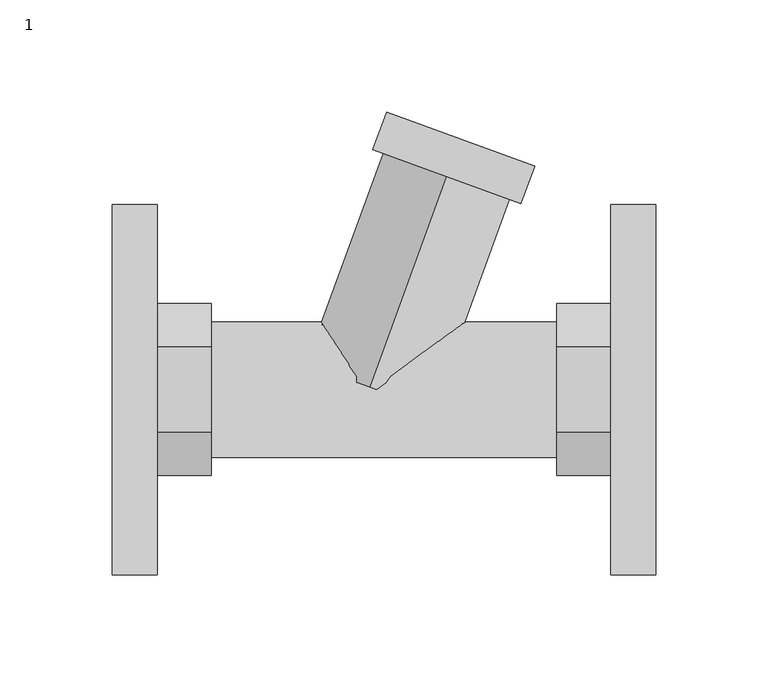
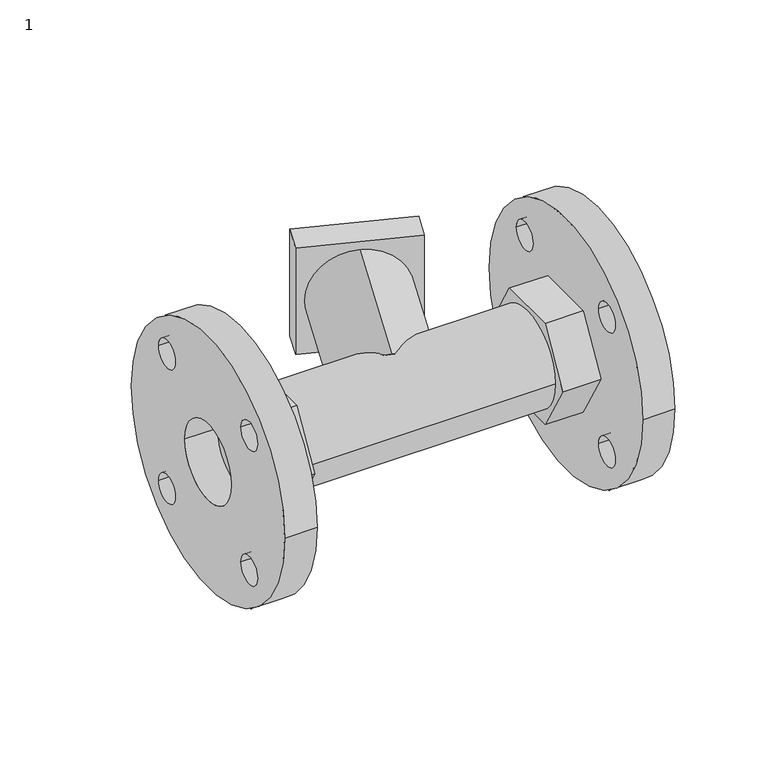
"""IFC4 building model written with IfcOpenShell, lengths in millimetres: valve geometry, FILTRO BRIDADO DN_50 : 1."""

from ifc_helpers import new_model, si_unit, point, frame, frame_2d, origin, origin_2d, place, context, project, spatial, polyline, circle_curve, trimmed, segment, composite_curve, outline, extrude, source, transform, mapped, element, save


def valve_1_31c7c6c1(model_context):
    return source(origin(), model_context, "Body", "SweptSolid", [
        extrude(outline(composite_curve([segment(trimmed(circle_curve(origin_2d(), 82.5), [point((-82.5, 0.0))], [point((82.5, 0.0))], False, "CARTESIAN"), True, "CONTINUOUS"), segment(trimmed(circle_curve(origin_2d(), 82.5), [point((82.5, 0.0))], [point((-82.5, 0.0))], False, "CARTESIAN"), True, "CONTINUOUS")], self_intersect=False), holes=[composite_curve([segment(trimmed(circle_curve(frame_2d((-44.2, 44.2)), 9.0), [point((-53.2, 44.2))], [point((-35.2, 44.2))], True, "CARTESIAN"), True, "CONTINUOUS"), segment(trimmed(circle_curve(frame_2d((-44.2, 44.2)), 9.0), [point((-35.2, 44.2))], [point((-53.2, 44.2))], True, "CARTESIAN"), True, "CONTINUOUS")], self_intersect=False), composite_curve([segment(trimmed(circle_curve(origin_2d(), 25.0), [point((-25.0, 0.0))], [point((25.0, 0.0))], True, "CARTESIAN"), True, "CONTINUOUS"), segment(trimmed(circle_curve(origin_2d(), 25.0), [point((25.0, 0.0))], [point((-25.0, 0.0))], True, "CARTESIAN"), True, "CONTINUOUS")], self_intersect=False), composite_curve([segment(trimmed(circle_curve(frame_2d((44.2, 44.2)), 9.0), [point((35.2, 44.2))], [point((53.2, 44.2))], True, "CARTESIAN"), True, "CONTINUOUS"), segment(trimmed(circle_curve(frame_2d((44.2, 44.2)), 9.0), [point((53.2, 44.2))], [point((35.2, 44.2))], True, "CARTESIAN"), True, "CONTINUOUS")], self_intersect=False), composite_curve([segment(trimmed(circle_curve(frame_2d((-44.2, -44.2)), 9.0), [point((-53.2, -44.2))], [point((-35.2, -44.2))], True, "CARTESIAN"), True, "CONTINUOUS"), segment(trimmed(circle_curve(frame_2d((-44.2, -44.2)), 9.0), [point((-35.2, -44.2))], [point((-53.2, -44.2))], True, "CARTESIAN"), True, "CONTINUOUS")], self_intersect=False), composite_curve([segment(trimmed(circle_curve(frame_2d((44.2, -44.2)), 9.0), [point((35.2, -44.2))], [point((53.2, -44.2))], True, "CARTESIAN"), True, "CONTINUOUS"), segment(trimmed(circle_curve(frame_2d((44.2, -44.2)), 9.0), [point((53.2, -44.2))], [point((35.2, -44.2))], True, "CARTESIAN"), True, "CONTINUOUS")], self_intersect=False)]), frame((-121.0, 0.0, 0.0), z_axis=(1.0, 0.0, 0.0), x_axis=(0.0, 1.0, 0.0)), (0.0, 0.0, 1.0), 20.0),
        extrude(outline(composite_curve([segment(trimmed(circle_curve(origin_2d(), 82.5), [point((-82.5, 0.0))], [point((82.5, 0.0))], False, "CARTESIAN"), True, "CONTINUOUS"), segment(trimmed(circle_curve(origin_2d(), 82.5), [point((82.5, 0.0))], [point((-82.5, 0.0))], False, "CARTESIAN"), True, "CONTINUOUS")], self_intersect=False), holes=[composite_curve([segment(trimmed(circle_curve(frame_2d((-44.2, 44.2)), 9.0), [point((-53.2, 44.2))], [point((-35.2, 44.2))], True, "CARTESIAN"), True, "CONTINUOUS"), segment(trimmed(circle_curve(frame_2d((-44.2, 44.2)), 9.0), [point((-35.2, 44.2))], [point((-53.2, 44.2))], True, "CARTESIAN"), True, "CONTINUOUS")], self_intersect=False), composite_curve([segment(trimmed(circle_curve(origin_2d(), 25.0), [point((-25.0, 0.0))], [point((25.0, 0.0))], True, "CARTESIAN"), True, "CONTINUOUS"), segment(trimmed(circle_curve(origin_2d(), 25.0), [point((25.0, 0.0))], [point((-25.0, 0.0))], True, "CARTESIAN"), True, "CONTINUOUS")], self_intersect=False), composite_curve([segment(trimmed(circle_curve(frame_2d((44.2, 44.2)), 9.0), [point((35.2, 44.2))], [point((53.2, 44.2))], True, "CARTESIAN"), True, "CONTINUOUS"), segment(trimmed(circle_curve(frame_2d((44.2, 44.2)), 9.0), [point((53.2, 44.2))], [point((35.2, 44.2))], True, "CARTESIAN"), True, "CONTINUOUS")], self_intersect=False), composite_curve([segment(trimmed(circle_curve(frame_2d((-44.2, -44.2)), 9.0), [point((-53.2, -44.2))], [point((-35.2, -44.2))], True, "CARTESIAN"), True, "CONTINUOUS"), segment(trimmed(circle_curve(frame_2d((-44.2, -44.2)), 9.0), [point((-35.2, -44.2))], [point((-53.2, -44.2))], True, "CARTESIAN"), True, "CONTINUOUS")], self_intersect=False), composite_curve([segment(trimmed(circle_curve(frame_2d((44.2, -44.2)), 9.0), [point((35.2, -44.2))], [point((53.2, -44.2))], True, "CARTESIAN"), True, "CONTINUOUS"), segment(trimmed(circle_curve(frame_2d((44.2, -44.2)), 9.0), [point((53.2, -44.2))], [point((35.2, -44.2))], True, "CARTESIAN"), True, "CONTINUOUS")], self_intersect=False)]), frame((101.0, 0.0, 0.0), z_axis=(1.0, 0.0, 0.0), x_axis=(0.0, 1.0, 0.0)), (0.0, 0.0, 1.0), 20.0),
        extrude(outline(polyline([(-4.9601682, 106.8917374), (1.1278052, 123.6183068), (67.0956965, 99.607958), (61.0077231, 82.8813885), (-4.9601682, 106.8917374)])), frame((0.0, 0.0, -35.0), z_axis=(0.0, 0.0, 1.0), x_axis=(1.0, 0.0, 0.0)), (0.0, 0.0, 1.0), 70.0),
        extrude(outline(composite_curve([segment(trimmed(circle_curve(frame_2d((0.0, -30.0)), 30.0), [point((0.0, -60.0))], [point((0.0, 0.0))], False, "CARTESIAN"), True, "CONTINUOUS"), segment(trimmed(circle_curve(frame_2d((0.0, -30.0)), 30.0), [point((0.0, 0.0))], [point((0.0, -60.0))], False, "CARTESIAN"), True, "CONTINUOUS")], self_intersect=False)), frame((-6.3815439, 1.1242384, 30.0), z_axis=(0.3420201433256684, 0.9396926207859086, 0.0), x_axis=(-0.9396926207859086, 0.3420201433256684, 0.0)), (0.0, 0.0, 1.0), 99.8750774),
        extrude(outline(composite_curve([segment(trimmed(circle_curve(origin_2d(), 30.15), [point((-30.15, 0.0))], [point((30.15, 0.0))], False, "CARTESIAN"), True, "CONTINUOUS"), segment(trimmed(circle_curve(origin_2d(), 30.15), [point((30.15, 0.0))], [point((-30.15, 0.0))], False, "CARTESIAN"), True, "CONTINUOUS")], self_intersect=False)), frame((-77.0, 0.0, 0.0), z_axis=(1.0, 0.0, 0.0), x_axis=(0.0, 1.0, 0.0)), (0.0, 0.0, 1.0), 154.0),
        extrude(outline(polyline([(-19.1478217, 33.165), (19.1478217, 33.165), (38.2956434, 0.0), (19.1478217, -33.165), (-19.1478217, -33.165), (-38.2956434, 0.0), (-19.1478217, 33.165)])), frame((77.0, 0.0, 0.0), z_axis=(1.0, 0.0, 0.0), x_axis=(0.0, 1.0, 0.0)), (0.0, 0.0, 1.0), 24.0),
        extrude(outline(polyline([(19.1478217, 33.165), (38.2956434, 0.0), (19.1478217, -33.165), (-19.1478217, -33.165), (-38.2956434, 0.0), (-19.1478217, 33.165), (19.1478217, 33.165)])), frame((-101.0, 0.0, 0.0), z_axis=(1.0, 0.0, 0.0), x_axis=(0.0, 1.0, 0.0)), (0.0, 0.0, 1.0), 24.0),
    ])


if __name__ == "__main__":
    model = new_model("IFC4")
    model_context = context("Model", 3, world=origin())
    ifc_project = project(units=[si_unit("LENGTHUNIT", "METRE", prefix="MILLI")], contexts=[model_context])
    site = spatial("IfcSite", under=ifc_project)
    building = spatial("IfcBuilding", under=site)
    placement = place(None, origin())
    valve_1_shape = valve_1_31c7c6c1(model_context)
    element("IfcValve", 1, ObjectType="FILTRO BRIDADO DN_50 : 1", at=placement, inside=building, context=model_context, shape_type="MappedRepresentation", body=[
        mapped(valve_1_shape, transform((0.0, 0.0, 0.0), x_axis=(1.0, 0.0, 0.0), y_axis=(0.0, 1.0, 0.0), z_axis=(0.0, 0.0, 1.0))),
    ])
    save(model, "model.ifc")
